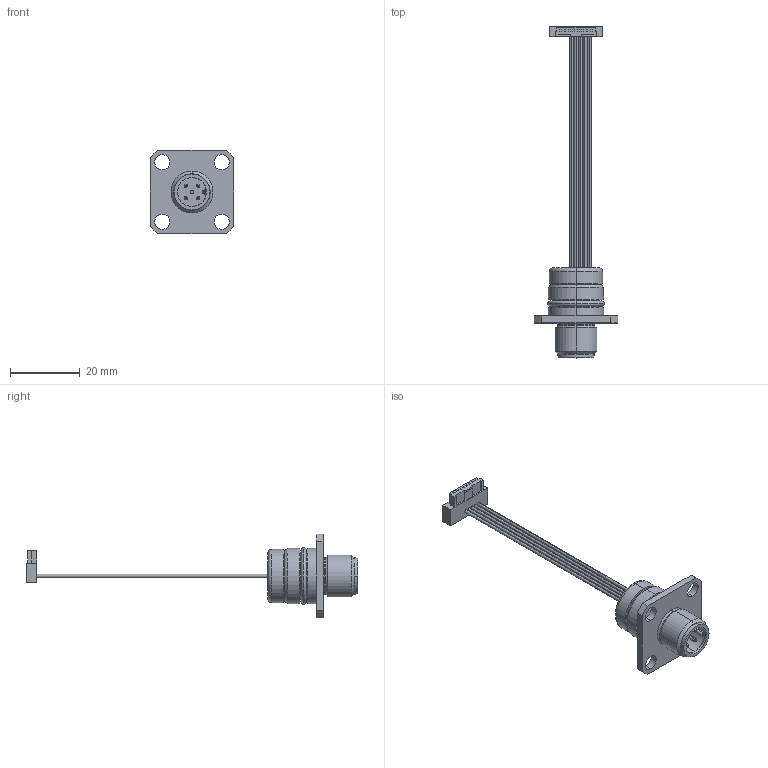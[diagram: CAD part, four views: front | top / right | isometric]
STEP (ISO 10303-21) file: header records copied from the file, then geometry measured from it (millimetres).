
FILE_DESCRIPTION (( 'STEP AP214' ), '1' );
FILE_NAME ('KV1H_0001~0.STEP', '2016-06-13T06:46:13', ( '' ), ( '' ), 'SwSTEP 2.0', 'SolidWorks 2013', '' );
FILE_SCHEMA (( 'AUTOMOTIVE_DESIGN' ));
Length unit declared in the file: millimetre
Products named in the file (1): KV1H_0001~0
Bounding box: 24 x 95 x 24 mm (x, y, z)
Surface area: 5307.2 mm2 (no closed solid volume)
Topology: 0 solids, 11 shells, 182 faces, 478 edges, 318 vertices
Faces by surface type: plane 97, cylinder 58, torus 11, cone 8, bspline 8
Entity records: 5860 total; most frequent: CARTESIAN_POINT 1210, DIRECTION 1002, ORIENTED_EDGE 898, EDGE_CURVE 478, AXIS2_PLACEMENT_3D 364, VERTEX_POINT 318, LINE 274, VECTOR 274
